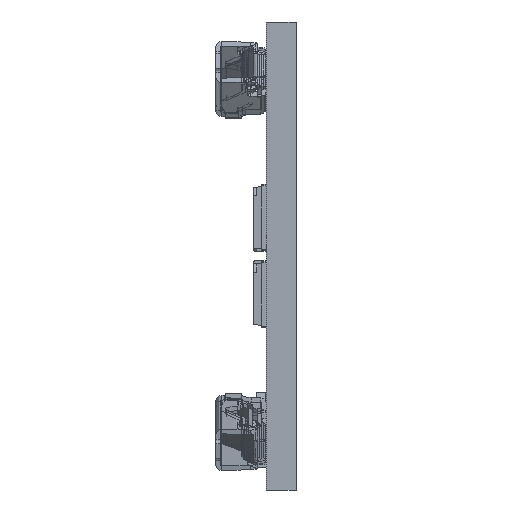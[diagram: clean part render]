
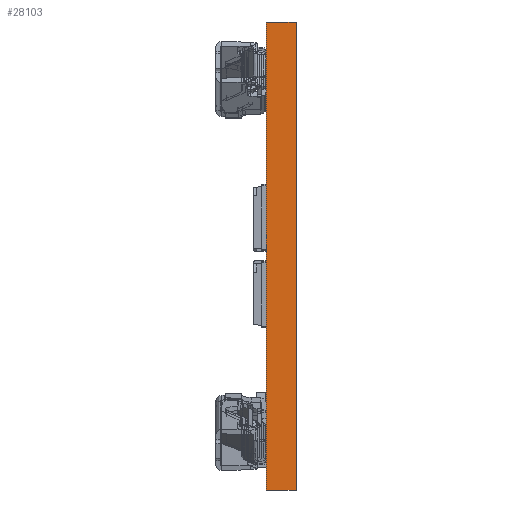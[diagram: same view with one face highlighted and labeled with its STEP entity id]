
A CAD part, left-side view. The second image highlights one B-rep face of the part: STEP entity #28103.
In plain terms, the highlighted planar face has unit normal (-1, 0, 0).
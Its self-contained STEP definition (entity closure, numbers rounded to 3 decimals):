
#542=DIRECTION('',(0.,0.,-1.));
#543=VECTOR('',#542,25.);
#544=CARTESIAN_POINT('',(-279.5,0.,10.784));
#545=LINE('',#544,#543);
#1285=DIRECTION('',(0.,0.,-1.));
#1286=VECTOR('',#1285,25.);
#1287=CARTESIAN_POINT('',(-279.5,-1.6,10.784));
#1288=LINE('',#1287,#1286);
#1292=DIRECTION('',(0.,1.,0.));
#1293=VECTOR('',#1292,1.6);
#1294=CARTESIAN_POINT('',(-279.5,-1.6,-14.216));
#1295=LINE('',#1294,#1293);
#1306=DIRECTION('',(0.,1.,0.));
#1307=VECTOR('',#1306,1.6);
#1308=CARTESIAN_POINT('',(-279.5,-1.6,10.784));
#1309=LINE('',#1308,#1307);
#19504=CARTESIAN_POINT('',(-279.5,0.,-14.216));
#19506=VERTEX_POINT('',#19504);
#19550=CARTESIAN_POINT('',(-279.5,0.,10.784));
#19551=VERTEX_POINT('',#19550);
#23425=CARTESIAN_POINT('',(-279.5,-1.6,-14.216));
#23427=VERTEX_POINT('',#23425);
#23429=CARTESIAN_POINT('',(-279.5,-1.6,10.784));
#23430=VERTEX_POINT('',#23429);
#28090=CARTESIAN_POINT('',(-279.5,0.,-14.216));
#28091=DIRECTION('',(-1.,0.,0.));
#28092=DIRECTION('',(0.,0.,1.));
#28093=AXIS2_PLACEMENT_3D('',#28090,#28091,#28092);
#28094=PLANE('',#28093);
#28095=ORIENTED_EDGE('',*,*,#24052,.F.);
#28097=ORIENTED_EDGE('',*,*,#28096,.F.);
#28099=ORIENTED_EDGE('',*,*,#28098,.T.);
#28100=ORIENTED_EDGE('',*,*,#28069,.T.);
#28101=EDGE_LOOP('',(#28095,#28097,#28099,#28100));
#28102=FACE_OUTER_BOUND('',#28101,.F.);
#24052=EDGE_CURVE('',#19551,#19506,#545,.T.);
#28069=EDGE_CURVE('',#23427,#19506,#1295,.T.);
#28096=EDGE_CURVE('',#23430,#19551,#1309,.T.);
#28098=EDGE_CURVE('',#23430,#23427,#1288,.T.);
#28103=ADVANCED_FACE('',(#28102),#28094,.T.);
